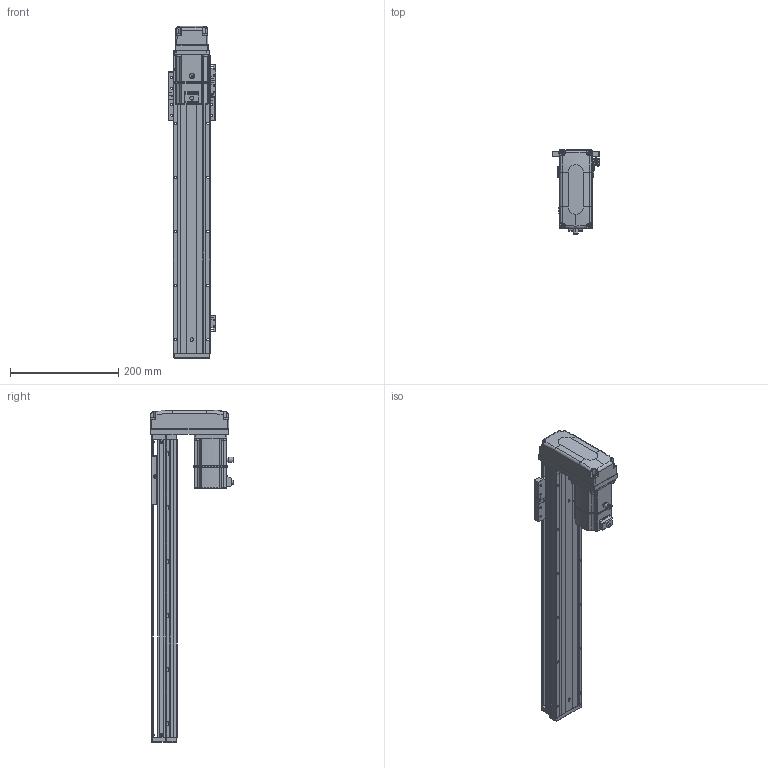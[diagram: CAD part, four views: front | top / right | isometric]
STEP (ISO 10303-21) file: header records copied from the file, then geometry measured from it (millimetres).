
FILE_DESCRIPTION (( 'STEP AP203' ), '1' );
FILE_NAME ('KTHAL60-400-BM-M20-C4L.step', '2022-12-16T02:10:18', ( '微软用户' ), ( '微软中国' ), 'SwSTEP 2.0', 'SolidWorks 2020', '' );
FILE_SCHEMA (( 'CONFIG_CONTROL_DESIGN' ));
Length unit declared in the file: millimetre
Products named in the file (17): KTHA60-004; GBT 70.1-M4×16; KTHAL60-400-BM-M20-C4L; KTHA60-005; GBT77-2000M3-3; GB¨uT 70.2-M3¡Á5_M3¡Á6; GBT 70.1-M3℅6; GBT 70.3-M3℅6; CTHA60-016; EE_SX911P_R; _X2_4E0983F1_X0_200W_1; KTHA60-001_550; CTHA60-017; CTHA60-015-4_CTHA60-015-4; KTHLA60-002; CTHA60-021; GTH80-026
Assembly tree (45 placements, depth 2):
  KTHAL60-400-BM-M20-C4L
    KTHA60-001_550
    KTHLA60-002
    KTHA60-004
    KTHA60-005
    GB¨uT 70.2-M3¡Á5_M3¡Á6  x5
    GBT 70.3-M3℅6  x4
    EE_SX911P_R  x3
    CTHA60-017  x3
    CTHA60-021  x2
    GBT 70.1-M4×16  x8
    GBT77-2000M3-3  x6
    GBT 70.1-M3℅6  x6
    CTHA60-016
    _X2_4E0983F1_X0_200W_1
    CTHA60-015-4_CTHA60-015-4
    GTH80-026
Bounding box: 87.82 x 155.2 x 614 mm (x, y, z)
Volume: 1759765.1 mm3; surface area: 370622.1 mm2
Topology: 48 solids, 48 shells, 2331 faces, 5548 edges, 3409 vertices
Faces by surface type: plane 1247, cylinder 617, cone 268, bspline 103, torus 82, sphere 14
Entity records: 45247 total; most frequent: CARTESIAN_POINT 10154, DIRECTION 6811, ORIENTED_EDGE 6720, EDGE_CURVE 3360, AXIS2_PLACEMENT_3D 2350, VECTOR 2111, LINE 2111, VERTEX_POINT 2093
